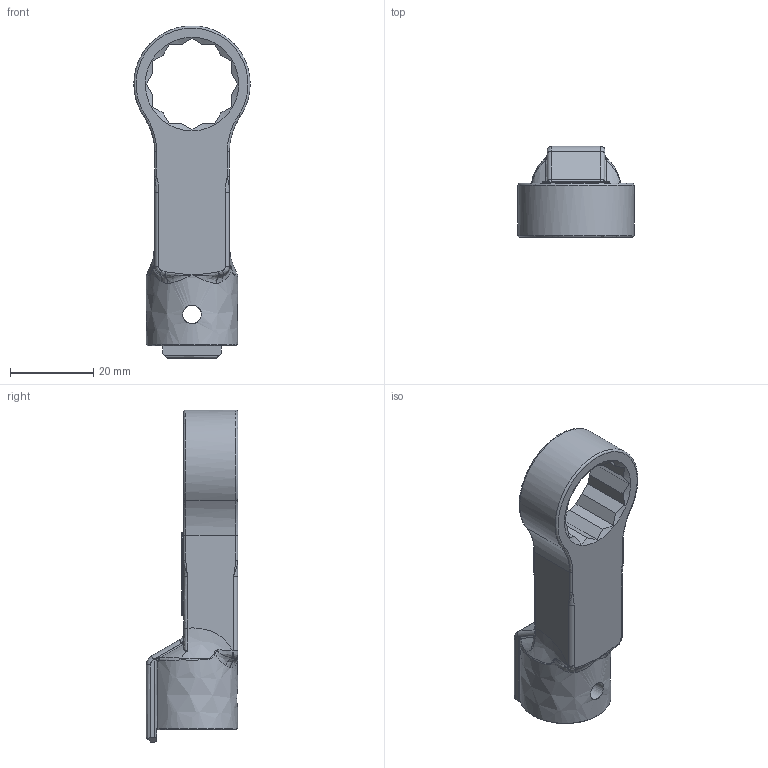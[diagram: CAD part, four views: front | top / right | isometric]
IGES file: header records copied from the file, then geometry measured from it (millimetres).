
Global section: file name: RH15DX19; native system: Autodesk Inventor 2016; preprocessor: unknown; author: Q600; date: 20151110.161739; units: millimetre
Bounding box: 27.99 x 22 x 79.99 mm (x, y, z)
Volume: 15310.1 mm3; surface area: 7019.6 mm2
Topology: 1 solids, 1 shells, 166 faces, 435 edges, 256 vertices
Faces by surface type: bspline 166
